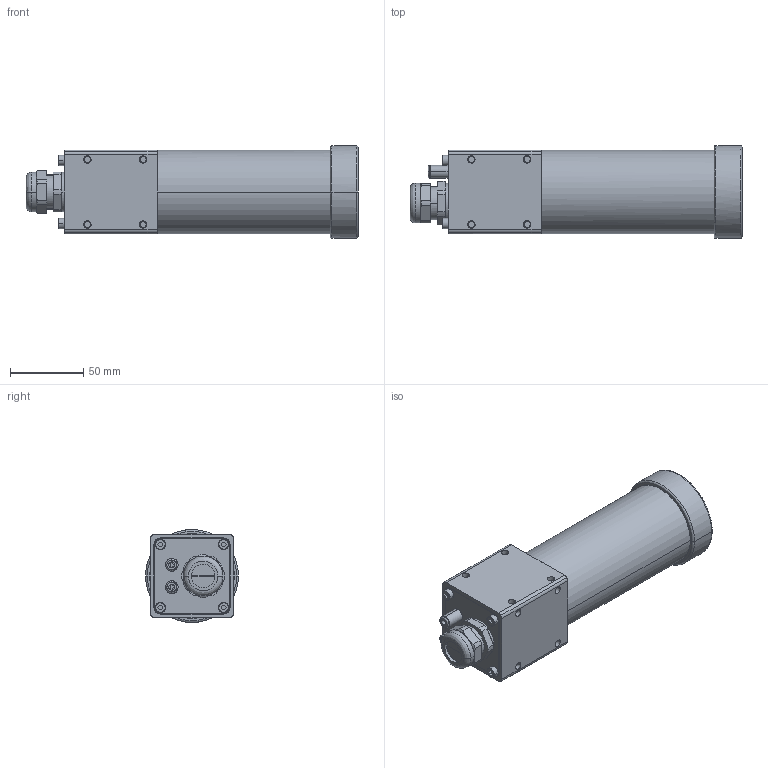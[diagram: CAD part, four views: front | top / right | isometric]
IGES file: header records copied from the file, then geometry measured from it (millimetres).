
Start section: Data from XPlus IGES,  Spatial Corp. Copyright (c) 1999-2006 .
Global section: file name: 22C-AG (Cognex).igs; native system:  By Spatial Corp.; preprocessor: XPlus ACIS/IGES; author: Chris McGeary; organization: Allison Park Group, Inc.; date: 20091019.160114; units: inch
Bounding box: 226.95 x 63.5 x 63.5 mm (x, y, z)
Volume: 308964.8 mm3; surface area: 149754.8 mm2
Topology: 34 solids, 34 shells, 1086 faces, 2400 edges, 1445 vertices
Faces by surface type: bspline 1086
